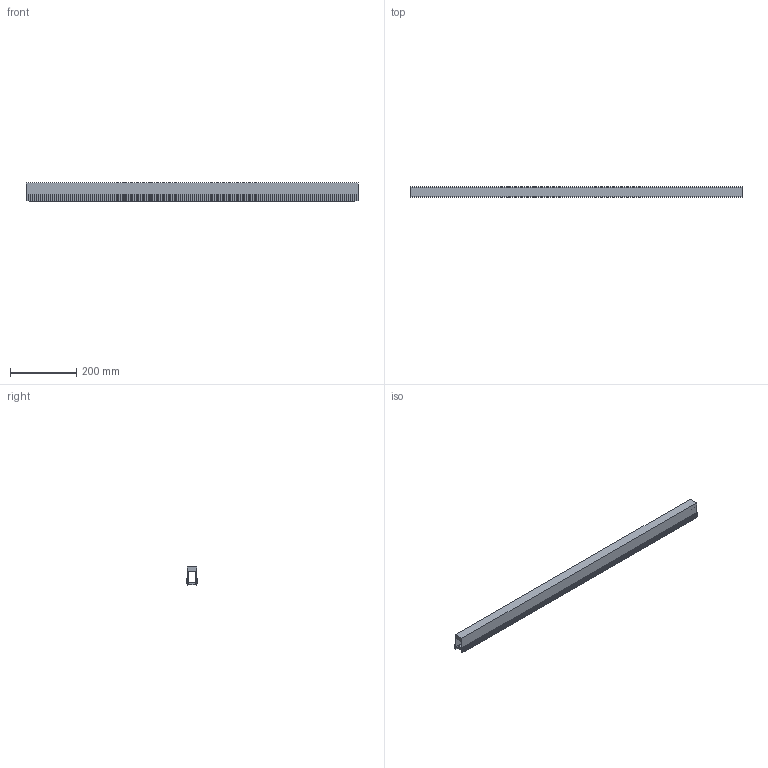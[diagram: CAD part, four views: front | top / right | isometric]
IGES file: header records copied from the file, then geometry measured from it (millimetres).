
Start section: SolidWorks IGES file using analytic representation for surfaces
Global section: file name: X:\PRODUKT\Modele 3D_WWW\_KOLEKCJE WWW\_LVM\LVM-RECESSED-TRACK-1M-10156\LVM-RECESSED-TRACK-1M-10156.IGS; native system: SolidWorks 2021; preprocessor: SolidWorks 2021; author: gabriela.tworek; date: 220509.120726; units: millimetre
Bounding box: 1000 x 31.5 x 54.31 mm (x, y, z)
Surface area: 348110.1 mm2 (no closed solid volume)
Topology: 0 solids, 0 shells, 78 faces, 444 edges, 444 vertices
Faces by surface type: bspline 78
